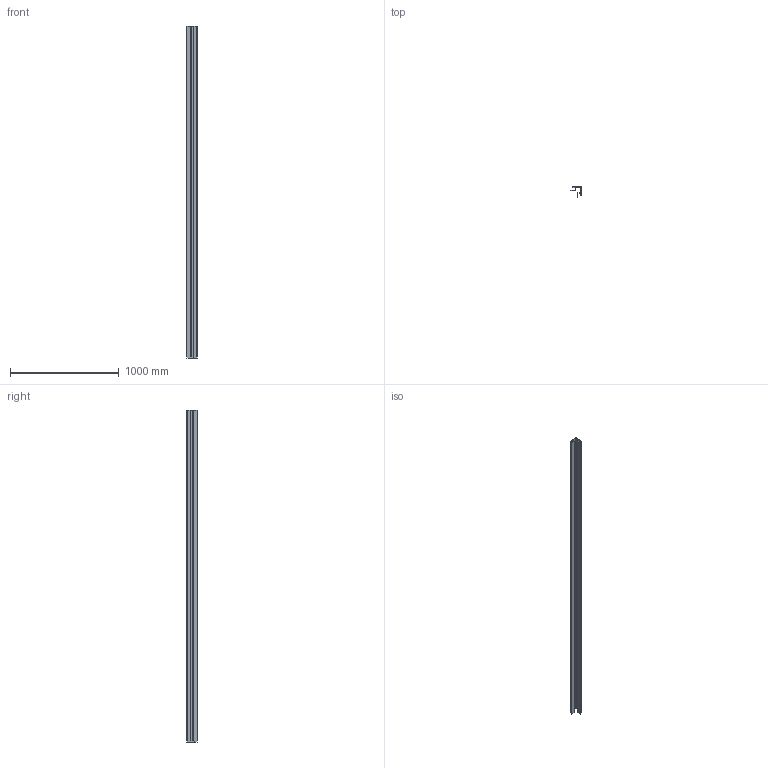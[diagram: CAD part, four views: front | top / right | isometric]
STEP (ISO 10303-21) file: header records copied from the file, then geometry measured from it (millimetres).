
FILE_DESCRIPTION (( 'STEP AP203' ), '1' );
FILE_NAME ('M21A.STEP', '2018-06-15T20:21:47', ( 'Michael Moliner' ), ( '' ), 'SwSTEP 2.0', 'SolidWorks 2018', '' );
FILE_SCHEMA (( 'CONFIG_CONTROL_DESIGN' ));
Length unit declared in the file: inch
Products named in the file (2): M21A
Bounding box: 92.08 x 92.08 x 3048 mm (x, y, z)
Volume: 507782 mm3; surface area: 2002571.8 mm2
Topology: 1 solids, 1 shells, 36 faces, 102 edges, 68 vertices
Faces by surface type: plane 20, cylinder 16
Entity records: 1335 total; most frequent: DIRECTION 210, CARTESIAN_POINT 208, ORIENTED_EDGE 204, EDGE_CURVE 102, VECTOR 70, AXIS2_PLACEMENT_3D 70, LINE 70, VERTEX_POINT 68
